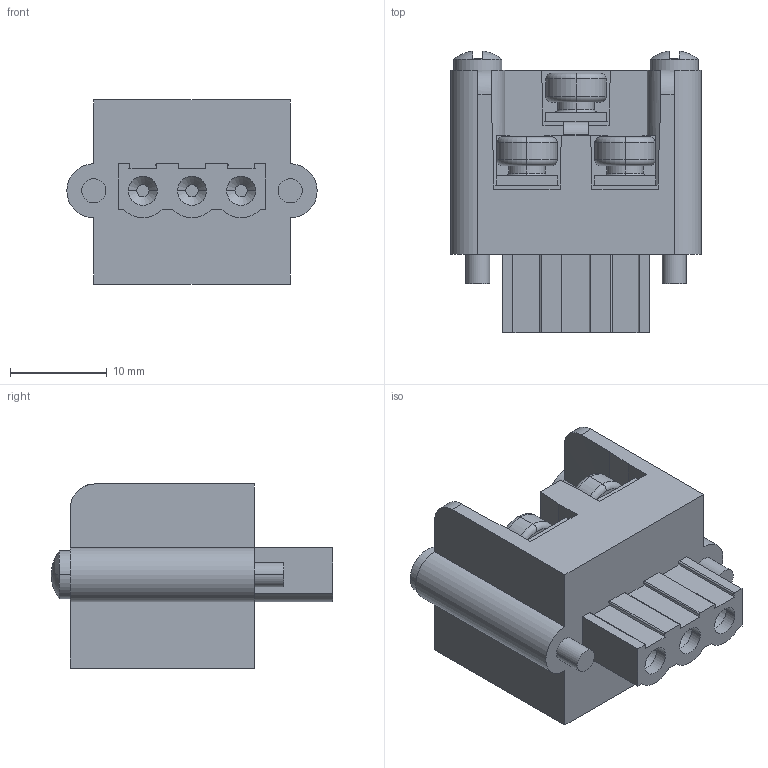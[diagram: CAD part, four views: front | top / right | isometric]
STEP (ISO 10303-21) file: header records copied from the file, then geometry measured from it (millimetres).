
FILE_DESCRIPTION((''),'2;1');
FILE_NAME('399400503','2015-10-13T',('me'),(''),'PRO/ENGINEER BY PARAMETRIC TECHNOLOGY CORPORATION, 2011490','PRO/ENGINEER BY PARAMETRIC TECHNOLOGY CORPORATION, 2011490','');
FILE_SCHEMA(('CONFIG_CONTROL_DESIGN'));
Length unit declared in the file: inch
Products named in the file (1): 399400503
Bounding box: 25.91 x 29.16 x 19.05 mm (x, y, z)
Volume: 6762 mm3; surface area: 3806.5 mm2
Topology: 1 solids, 1 shells, 265 faces, 709 edges, 468 vertices
Faces by surface type: plane 189, cylinder 48, torus 18, cone 6, sphere 4
Entity records: 8324 total; most frequent: CARTESIAN_POINT 1563, ORIENTED_EDGE 1402, DIRECTION 1391, EDGE_CURVE 701, VECTOR 523, LINE 523, VERTEX_POINT 452, AXIS2_PLACEMENT_3D 434
